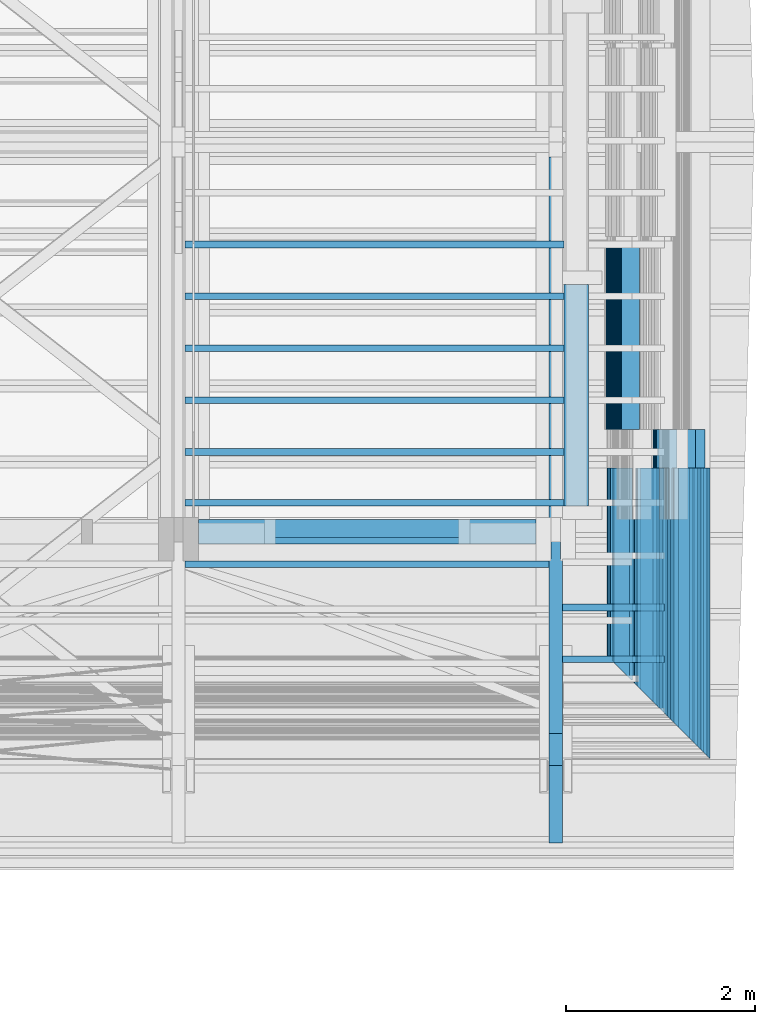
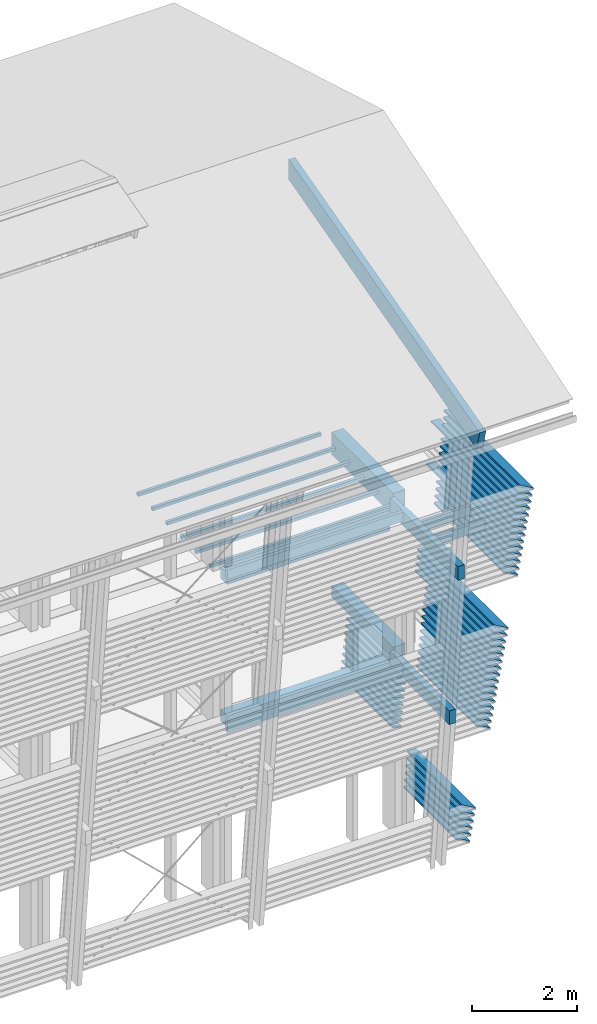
# One storey, part 22 of 48: 64 beams.
"""IFC2X3 building model written with IfcOpenShell, lengths in metres."""

import ifcopenshell
import ifcopenshell.guid

model = None  # the IFC model being written
_history = None  # IfcOwnerHistory: only IFC2X3 demands one
_inside = {}  # id of a spatial element -> (the spatial element, [elements in it])
_under = {}  # id of a project, library or spatial element -> (it, [spatial elements below it])
_declared = {}  # id of a project -> (the project, [libraries it declares])
_typed = {}  # id of a type object -> (the type object, [elements of that type])
_made_of = {}  # id of a material, layer set ... -> (it, [elements and type objects made of it])


def new_model(schema):
    """Start an empty IFC model of exactly this schema.

    Asked for "IFC4X3", IfcOpenShell would pick the latest addendum, in which some entities
    have other attributes; the version numbers below select the first issue.
    IFC2X3 requires an IfcOwnerHistory on every rooted entity: one is made here for all.
    """
    global model, _history
    if schema == "IFC4X3":
        model = ifcopenshell.file(schema_version=(4, 3, 0, 0))
    else:
        model = ifcopenshell.file(schema=schema)
    _inside.clear()
    _under.clear()
    _declared.clear()
    _typed.clear()
    _made_of.clear()
    _history = None
    if model.schema == "IFC2X3":
        org = make("IfcOrganization", Name="unknown")
        user = make(
            "IfcPersonAndOrganization",
            ThePerson=make("IfcPerson", FamilyName="unknown"),
            TheOrganization=org,
        )
        app = make(
            "IfcApplication",
            ApplicationDeveloper=org,
            Version="unknown",
            ApplicationFullName="unknown",
            ApplicationIdentifier="unknown",
        )
        _history = make(
            "IfcOwnerHistory",
            OwningUser=user,
            OwningApplication=app,
            ChangeAction="ADDED",
            CreationDate=0,
        )
    return model


def make(cls, **values):
    """One entity of the class cls with the attributes given. An attribute that is None is left unset."""
    return model.create_entity(
        cls, **{name: value for name, value in values.items() if value is not None}
    )


def rooted(cls, **values):
    """An entity with a GlobalId (a new one), such as an element, a storey or a relation."""
    return make(cls, GlobalId=ifcopenshell.guid.new(), OwnerHistory=_history, **values)


def si_unit(unit_type, name, prefix=None):
    """IfcSIUnit, for example si_unit("LENGTHUNIT", "METRE", prefix="MILLI")."""
    return make("IfcSIUnit", UnitType=unit_type, Prefix=prefix, Name=name)


def assignment(units):
    """IfcUnitAssignment: the units of a project."""
    return None if units is None else make("IfcUnitAssignment", Units=units)


def point(xyz):
    """IfcCartesianPoint."""
    return None if xyz is None else make("IfcCartesianPoint", Coordinates=xyz)


def direction(xyz):
    """IfcDirection."""
    return None if xyz is None else make("IfcDirection", DirectionRatios=xyz)


def frame(location, z_axis=None, x_axis=None):
    """IfcAxis2Placement3D, a coordinate frame: its origin and axes. An axis left out is left unset."""
    return make(
        "IfcAxis2Placement3D",
        Location=point(location),
        Axis=direction(z_axis),
        RefDirection=direction(x_axis),
    )


def origin_with_axes():
    """The frame at (0, 0, 0) with the z axis (0, 0, 1) and the x axis (1, 0, 0) written out."""
    return frame((0.0, 0.0, 0.0), z_axis=(0.0, 0.0, 1.0), x_axis=(1.0, 0.0, 0.0))


def place(relative_to, where):
    """IfcLocalPlacement: puts the frame where relative to a parent placement (None: the world)."""
    return make(
        "IfcLocalPlacement", PlacementRelTo=relative_to, RelativePlacement=where
    )


def context(
    kind, dimensions, precision=None, world=None, true_north=None, identifier=None
):
    """IfcGeometricRepresentationContext, for example the 3D "Model" context."""
    return make(
        "IfcGeometricRepresentationContext",
        ContextIdentifier=identifier,
        ContextType=kind,
        CoordinateSpaceDimension=dimensions,
        Precision=precision,
        WorldCoordinateSystem=world,
        TrueNorth=true_north,
    )


def subcontext(parent, identifier, kind, view, scale=None):
    """IfcGeometricRepresentationSubContext, for example "Body" below "Model"."""
    return make(
        "IfcGeometricRepresentationSubContext",
        ContextIdentifier=identifier,
        ContextType=kind,
        ParentContext=parent,
        TargetScale=scale,
        TargetView=view,
    )


def project(units=None, contexts=None):
    """IfcProject with its units and contexts."""
    return rooted(
        "IfcProject",
        Name="project",
        RepresentationContexts=contexts,
        UnitsInContext=assignment(units),
    )


def spatial(cls, under=None, at=None, **own):
    """A site, building, storey or space (cls), placed at a placement, below another one or the project."""
    s = rooted(cls, ObjectPlacement=at, **own)
    if under is not None:
        _under.setdefault(under.id(), (under, []))[1].append(s)
    return s


def faces_of(points, faces, orient=None, outer=None):
    """IfcFace entities. A face is a list of loops; a loop is a list of indices into points, from 0.

    orient and outer hold one flag for each loop. By default every Orientation is true, the
    first loop of a face is its IfcFaceOuterBound and the others are IfcFaceBound.
    """
    made = []
    for i, loops in enumerate(faces):
        bounds = []
        for j, loop in enumerate(loops):
            is_outer = j == 0 if outer is None else outer[i][j]
            bounds.append(
                make(
                    "IfcFaceOuterBound" if is_outer else "IfcFaceBound",
                    Bound=make("IfcPolyLoop", Polygon=[points[k] for k in loop]),
                    Orientation=True if orient is None else orient[i][j],
                )
            )
        made.append(make("IfcFace", Bounds=bounds))
    return made


def faceted_brep(points, faces, orient=None, outer=None, voids=None):
    """IfcFacetedBrep: a solid bounded by flat faces; with voids (closed shells), ...WithVoids."""
    shared = [point(p) for p in points]
    hull = make("IfcClosedShell", CfsFaces=faces_of(shared, faces, orient, outer))
    if voids is None:
        return make("IfcFacetedBrep", Outer=hull)
    return make(
        "IfcFacetedBrepWithVoids",
        Outer=hull,
        Voids=[
            make(cls, CfsFaces=faces_of(shared, fs, o, b)) for cls, fs, o, b in voids
        ],
    )


def shape(context_of_items, identifier, shape_type, items):
    """IfcShapeRepresentation: the items that make up one representation, for example the "Body"."""
    return make(
        "IfcShapeRepresentation",
        ContextOfItems=context_of_items,
        RepresentationIdentifier=identifier,
        RepresentationType=shape_type,
        Items=items,
    )


def material(Name=None, Category=None):
    """IfcMaterial."""
    return make("IfcMaterial", Name=Name, Category=Category)


def made_of(thing, what):
    """Note that an element or type object is made of a material, layer set ...; save() writes the relation."""
    if what is not None:
        _made_of.setdefault(what.id(), (what, []))[1].append(thing)
    return thing


def element(
    cls,
    number,
    at=None,
    inside=None,
    cuts=None,
    type_object=None,
    material=None,
    context=None,
    identifier="Body",
    shape_type=None,
    held_by="IfcProductDefinitionShape",
    body=None,
    shapes=None,
    **own,
):
    """One element of the class cls, such as IfcWall. Its Tag is "e" and its number.

    at: its placement. inside: the storey or other place that contains it. cuts: it is an
    opening in that element (IfcRelVoidsElement). A single representation is given by context,
    identifier, shape_type and body (its items); several are given by shapes. held_by: the class
    of the entity that holds the representations. save() writes the other relations.
    """
    e = rooted(cls, Tag="e%d" % number, ObjectPlacement=at, **own)
    if body is not None:
        shapes = [shape(context, identifier, shape_type, body)]
    if shapes is not None:
        e.Representation = make(held_by, Representations=shapes)
    if inside is not None:
        _inside.setdefault(inside.id(), (inside, []))[1].append(e)
    if cuts is not None:
        rooted(
            "IfcRelVoidsElement", RelatingBuildingElement=cuts, RelatedOpeningElement=e
        )
    if type_object is not None:
        _typed.setdefault(type_object.id(), (type_object, []))[1].append(e)
    return made_of(e, material)


def aggregate(whole, parts):
    """IfcRelAggregates: a whole, such as a stair, and the parts it consists of."""
    return rooted("IfcRelAggregates", RelatingObject=whole, RelatedObjects=parts)


def save(model, path):
    """Write the relations noted so far, then the file.

    IfcRelAggregates (storeys below a building ...), IfcRelContainedInSpatialStructure (elements
    in a storey), IfcRelDefinesByType, IfcRelAssociatesMaterial and IfcRelDeclares: one each for
    every whole, place, type object, material and project.
    """
    for whole, parts in _under.values():
        aggregate(whole, parts)
    for where, things in _inside.values():
        rooted(
            "IfcRelContainedInSpatialStructure",
            RelatedElements=things,
            RelatingStructure=where,
        )
    for kind, things in _typed.values():
        rooted("IfcRelDefinesByType", RelatedObjects=things, RelatingType=kind)
    for what, things in _made_of.values():
        rooted("IfcRelAssociatesMaterial", RelatedObjects=things, RelatingMaterial=what)
    for by, libraries in _declared.values():
        rooted("IfcRelDeclares", RelatingContext=by, RelatedDefinitions=libraries)
    model.write(path)


model = new_model("IFC2X3")

# Units and contexts
model_context = context("Model", 3, precision=1e-06, world=origin_with_axes(), true_north=direction((0.0, 1.0, 0.0)))
body_context = subcontext(model_context, "Body", "Model", "MODEL_VIEW")
ifc_project = project(units=[si_unit("LENGTHUNIT", "METRE"), si_unit("AREAUNIT", "SQUARE_METRE"), si_unit("VOLUMEUNIT", "CUBIC_METRE"), si_unit("PLANEANGLEUNIT", "RADIAN")], contexts=[model_context])

# Site, building, storey
site_placement = place(None, origin_with_axes())
site = spatial("IfcSite", under=ifc_project, at=site_placement, CompositionType="ELEMENT")
building_placement = place(site_placement, origin_with_axes())
building = spatial("IfcBuilding", under=site, at=building_placement, Name="Building 1", CompositionType="ELEMENT")
storey_placement = place(building_placement, origin_with_axes())
storey = spatial("IfcBuildingStorey", under=building, at=storey_placement, Name="Storey 1", CompositionType="ELEMENT", Elevation=0.0)

# Beams
ifc_material_1 = material(Name="Moabi")
beam_1_placement = place(storey_placement, frame((70.2608185, -190.2580698, 2.9546989), z_axis=(-0.9659258, 0.0, 0.258819), x_axis=(0.0, -1.0, 0.0)))
element("IfcBeam", 1, at=beam_1_placement, inside=storey, material=ifc_material_1, Name="garde corp", context=body_context, shape_type="Brep", body=[
    faceted_brep([(1.9999995, 0.02, -0.1), (1.9999995, -0.02, -0.1), (0.0, -0.02, -0.1), (0.0, 0.02, -0.1), (1.9999995, -0.02, 0.1), (0.0, -0.02, 0.1), (1.9999995, 0.02, 0.1), (0.0, 0.02, 0.1)], [[[0, 1, 2, 3]], [[1, 4, 5, 2]], [[4, 6, 7, 5]], [[6, 0, 3, 7]], [[1, 0, 6, 4]], [[7, 3, 2, 5]]]),
])
beam_2_placement = place(storey_placement, frame((70.8232946, -192.6638606, 7.0782118), z_axis=(-0.9945219, 0.0, 0.1045285), x_axis=(0.0, -1.0, 0.0)))
element("IfcBeam", 2, at=beam_2_placement, inside=storey, material=ifc_material_1, Name="garde corp", context=body_context, shape_type="Brep", body=[
    faceted_brep([(2.8787859, -0.02, -0.1), (2.881765, 0.0085004, -0.1), (2.881765, 0.02, -0.0987913), (2.6840627, 0.02, 0.1), (2.6798815, -0.02, 0.1), (2.881765, 0.02, -0.1), (0.0, 0.02, -0.1), (0.0, 0.02, 0.1), (0.0, -0.02, -0.1), (0.0, -0.02, 0.1)], [[[0, 1, 2, 3, 4]], [[3, 2, 5, 6, 7]], [[2, 1, 5]], [[1, 0, 8, 6, 5]], [[0, 4, 9, 8]], [[4, 3, 7, 9]], [[7, 6, 8, 9]]]),
])
beam_3_placement = place(storey_placement, frame((70.4888035, -195.2111699, 3.8957417), z_axis=(-0.9945219, 0.0, 0.1045285), x_axis=(0.0, 1.0, 0.0)))
element("IfcBeam", 3, at=beam_3_placement, inside=storey, material=ifc_material_1, Name="garde corp", context=body_context, shape_type="Brep", body=[
    faceted_brep([(0.0030144, 0.02, -0.1), (0.0, -0.0088383, -0.1), (0.0, -0.02, -0.0988269), (0.1977377, -0.02, 0.1), (0.2019188, 0.02, 0.1), (0.0, -0.02, -0.1), (2.5473093, -0.02, -0.1), (2.5473093, -0.02, 0.1), (2.5473093, 0.02, -0.1), (2.5473093, 0.02, 0.1)], [[[0, 1, 2, 3, 4]], [[3, 2, 5, 6, 7]], [[2, 1, 5]], [[1, 0, 8, 6, 5]], [[0, 4, 9, 8]], [[4, 3, 7, 9]], [[7, 6, 8, 9]]]),
])
beam_4_placement = place(storey_placement, frame((70.277543, -190.2580698, 3.1138224), z_axis=(-0.9659258, 0.0, 0.258819), x_axis=(0.0, -1.0, 0.0)))
element("IfcBeam", 4, at=beam_4_placement, inside=storey, material=ifc_material_1, Name="garde corp", context=body_context, shape_type="Brep", body=[
    faceted_brep([(1.9999995, 0.02, -0.1), (1.9999995, -0.02, -0.1), (0.0, -0.02, -0.1), (0.0, 0.02, -0.1), (1.9999995, -0.02, 0.1), (0.0, -0.02, 0.1), (1.9999995, 0.02, 0.1), (0.0, 0.02, 0.1)], [[[0, 1, 2, 3]], [[1, 4, 5, 2]], [[4, 6, 7, 5]], [[6, 0, 3, 7]], [[1, 0, 6, 4]], [[7, 3, 2, 5]]]),
])
beam_5_placement = place(storey_placement, frame((70.9236419, -192.6638606, 8.0329528), z_axis=(-0.9945219, 0.0, 0.1045285), x_axis=(0.0, -1.0, 0.0)))
element("IfcBeam", 5, at=beam_5_placement, inside=storey, material=ifc_material_1, Name="garde corp", context=body_context, shape_type="Brep", body=[
    faceted_brep([(2.9791332, -0.02, -0.1), (2.9833144, 0.02, -0.1), (2.78441, 0.02, 0.1), (2.7802289, -0.02, 0.1), (0.0, 0.02, -0.1), (0.0, 0.02, 0.1), (0.0, -0.02, -0.1), (0.0, -0.02, 0.1)], [[[0, 1, 2, 3]], [[2, 1, 4, 5]], [[1, 0, 6, 4]], [[0, 3, 7, 6]], [[3, 2, 5, 7]], [[5, 4, 6, 7]]]),
])
ifc_material_2 = material(Name="GL28h")
beam_6_placement = place(storey_placement, frame((65.6997437, -193.4346515, 7.64), z_axis=(0.0, 0.0, 1.0), x_axis=(1.0, 0.0, 0.0)))
element("IfcBeam", 6, at=beam_6_placement, inside=storey, material=ifc_material_2, Name="Rive", context=body_context, shape_type="Brep", body=[
    faceted_brep([(0.0, -0.035, -0.11), (0.0, -0.035, 0.11), (0.0, 0.035, 0.11), (0.0, 0.035, -0.11), (3.58, 0.035, -0.11), (3.58, -0.035, -0.11), (3.58, -0.035, 0.11), (3.58, 0.035, 0.11)], [[[0, 1, 2, 3]], [[0, 3, 4, 5]], [[1, 0, 5, 6]], [[5, 4, 7, 6]], [[3, 2, 7, 4]], [[2, 1, 6, 7]]]),
])
beam_7_placement = place(storey_placement, frame((65.6997437, -193.3396515, 4.085), z_axis=(0.0, 0.0, 1.0), x_axis=(1.0, 0.0, 0.0)))
element("IfcBeam", 7, at=beam_7_placement, inside=storey, material=ifc_material_2, Name="Buton", context=body_context, shape_type="Brep", body=[
    faceted_brep([(0.0, 0.13, 0.13), (0.0, -0.13, 0.13), (3.58, -0.13, 0.13), (3.58, 0.13, 0.13), (0.0, -0.13, -0.13), (3.58, -0.13, -0.13), (0.0, 0.13, -0.13), (3.58, 0.13, -0.13)], [[[0, 1, 2, 3]], [[2, 1, 4, 5]], [[1, 0, 6, 4]], [[5, 4, 6, 7]], [[0, 3, 7, 6]], [[3, 2, 5, 7]]]),
])
beam_8_placement = place(storey_placement, frame((70.5389772, -195.2625103, 4.3731122), z_axis=(-0.9945219, 0.0, 0.1045285), x_axis=(0.0, 1.0, 0.0)))
element("IfcBeam", 8, at=beam_8_placement, inside=storey, material=ifc_material_1, Name="garde corp", context=body_context, shape_type="Brep", body=[
    faceted_brep([(0.0041811, 0.02, -0.1), (0.0, -0.02, -0.1), (0.1989044, -0.02, 0.1), (0.2030855, 0.02, 0.1), (2.5986496, -0.02, -0.1), (2.5986496, -0.02, 0.1), (2.5986496, 0.02, -0.1), (2.5986496, 0.02, 0.1)], [[[0, 1, 2, 3]], [[2, 1, 4, 5]], [[1, 0, 6, 4]], [[0, 3, 7, 6]], [[3, 2, 5, 7]], [[5, 4, 6, 7]]]),
])
beam_9_placement = place(storey_placement, frame((69.4897437, -196.5806087, 11.197686), z_axis=(0.0, -0.258819, 0.9659258), x_axis=(0.0, 0.9659258, 0.258819)))
element("IfcBeam", 9, at=beam_9_placement, inside=storey, material=ifc_material_2, Name="Arbalétrier", context=body_context, shape_type="Brep", body=[
    faceted_brep([(7.4053414, 0.07, -0.23), (7.5285981, 0.07, 0.23), (7.5285981, -0.07, 0.23), (7.4053414, -0.07, -0.23), (0.0, 0.07, 0.23), (0.0, -0.07, 0.23), (0.0, 0.07, -0.23), (0.0, -0.07, -0.23)], [[[0, 1, 2, 3]], [[2, 1, 4, 5]], [[1, 0, 6, 4]], [[0, 3, 7, 6]], [[3, 2, 5, 7]], [[6, 7, 5, 4]]]),
])
beam_10_placement = place(storey_placement, frame((65.6997437, -193.3396515, 7.4), z_axis=(0.0, 0.0, 1.0), x_axis=(1.0, 0.0, 0.0)))
element("IfcBeam", 10, at=beam_10_placement, inside=storey, material=ifc_material_2, Name="Buton", context=body_context, shape_type="Brep", body=[
    faceted_brep([(0.0, 0.13, 0.13), (0.0, -0.13, 0.13), (3.58, -0.13, 0.13), (3.58, 0.13, 0.13), (0.0, -0.13, -0.13), (3.58, -0.13, -0.13), (0.0, 0.13, -0.13), (3.58, 0.13, -0.13)], [[[0, 1, 2, 3]], [[2, 1, 4, 5]], [[1, 0, 6, 4]], [[5, 4, 6, 7]], [[0, 3, 7, 6]], [[3, 2, 5, 7]]]),
])
beam_11_placement = place(storey_placement, frame((70.8567437, -192.6638606, 7.3964588), z_axis=(-0.9945219, 0.0, 0.1045285), x_axis=(0.0, -1.0, 0.0)))
element("IfcBeam", 11, at=beam_11_placement, inside=storey, material=ifc_material_1, Name="garde corp", context=body_context, shape_type="Brep", body=[
    faceted_brep([(2.912235, -0.02, -0.1), (2.9164162, 0.02, -0.1), (2.7175118, 0.02, 0.1), (2.7133306, -0.02, 0.1), (0.0, 0.02, -0.1), (0.0, 0.02, 0.1), (0.0, -0.02, -0.1), (0.0, -0.02, 0.1)], [[[0, 1, 2, 3]], [[2, 1, 4, 5]], [[1, 0, 6, 4]], [[0, 3, 7, 6]], [[3, 2, 5, 7]], [[5, 4, 6, 7]]]),
])
beam_12_placement = place(storey_placement, frame((69.7097437, -190.7180698, 4.085), z_axis=(0.0, 0.0, 1.0), x_axis=(0.0, -1.0, 0.0)))
element("IfcBeam", 12, at=beam_12_placement, inside=storey, material=ifc_material_2, Name="Buton", context=body_context, shape_type="Brep", body=[
    faceted_brep([(2.3515817, -0.13, -0.13), (2.3515817, 0.13, -0.13), (2.3515817, 0.13, 0.13), (2.3515817, -0.13, 0.13), (0.0, 0.13, -0.13), (0.0, 0.13, 0.13), (0.0, -0.13, 0.13), (0.0, -0.13, -0.13)], [[[0, 1, 2, 3]], [[4, 5, 2, 1]], [[5, 6, 3, 2]], [[6, 7, 0, 3]], [[7, 4, 1, 0]], [[5, 4, 7, 6]]]),
])
beam_13_placement = place(storey_placement, frame((69.4897437, -193.1896515, 7.649), z_axis=(0.0, 0.0, 1.0), x_axis=(0.0, -1.0, 0.0)))
element("IfcBeam", 13, at=beam_13_placement, inside=storey, material=ifc_material_2, Name="Sommier Coursive", context=body_context, shape_type="Brep", body=[
    faceted_brep([(0.0, -0.05, -0.16), (0.44, -0.05, -0.16), (0.44, -0.05, 0.16), (0.0, -0.05, 0.16), (0.44, -0.07, -0.16), (0.44, -0.07, 0.16), (0.0, 0.05, 0.16), (0.0, 0.05, -0.16), (2.6285375, -0.07, 0.16), (2.6285375, 0.07, 0.16), (0.44, 0.07, 0.16), (0.44, 0.05, 0.16), (0.44, 0.05, -0.16), (0.44, 0.07, -0.16), (2.6285375, -0.07, -0.16), (2.6285375, 0.07, -0.16)], [[[0, 1, 2, 3]], [[1, 4, 5, 2]], [[0, 3, 6, 7]], [[3, 2, 5, 8, 9, 10, 11, 6]], [[6, 11, 12, 7]], [[11, 10, 13, 12]], [[5, 4, 14, 8]], [[1, 0, 7, 12, 13, 15, 14, 4]], [[13, 10, 9, 15]], [[9, 8, 14, 15]]]),
])
beam_14_placement = place(storey_placement, frame((69.7097437, -190.7180698, 7.53), z_axis=(0.0, 0.0, 1.0), x_axis=(0.0, -1.0, 0.0)))
element("IfcBeam", 14, at=beam_14_placement, inside=storey, material=ifc_material_2, Name="Buton", context=body_context, shape_type="Brep", body=[
    faceted_brep([(2.3515817, -0.13, 0.26), (2.3515817, -0.13, -0.26), (2.3515817, 0.13, -0.26), (2.3515817, 0.13, 0.26), (0.0, 0.13, -0.26), (0.0, 0.13, 0.26), (0.0, -0.13, 0.26), (0.0, -0.13, -0.26)], [[[0, 1, 2, 3]], [[4, 5, 3, 2]], [[5, 6, 0, 3]], [[6, 7, 1, 0]], [[7, 4, 2, 1]], [[4, 7, 6, 5]]]),
])
beam_15_placement = place(storey_placement, frame((69.4897437, -193.1896515, 4.089), z_axis=(0.0, 0.0, 1.0), x_axis=(0.0, -1.0, 0.0)))
element("IfcBeam", 15, at=beam_15_placement, inside=storey, material=ifc_material_2, Name="Sommier Coursive", context=body_context, shape_type="Brep", body=[
    faceted_brep([(0.0, 0.05, 0.16), (0.44, 0.05, 0.16), (0.44, 0.05, -0.16), (0.0, 0.05, -0.16), (0.44, 0.07, 0.16), (0.44, 0.07, -0.16), (0.0, -0.05, 0.16), (0.44, -0.05, 0.16), (0.44, -0.07, 0.16), (2.2900003, -0.07, 0.16), (2.2900003, 0.07, 0.16), (0.0, -0.05, -0.16), (0.44, -0.05, -0.16), (0.44, -0.07, -0.16), (2.2900003, 0.07, -0.16), (2.2900003, -0.07, -0.16)], [[[0, 1, 2, 3]], [[1, 4, 5, 2]], [[4, 1, 0, 6, 7, 8, 9, 10]], [[0, 3, 11, 6]], [[11, 12, 7, 6]], [[12, 13, 8, 7]], [[2, 5, 14, 15, 13, 12, 11, 3]], [[8, 13, 15, 9]], [[5, 4, 10, 14]], [[10, 9, 15, 14]]]),
])
beam_16_placement = place(storey_placement, frame((70.8400192, -192.6638606, 7.2373353), z_axis=(-0.9945219, 0.0, 0.1045285), x_axis=(0.0, -1.0, 0.0)))
element("IfcBeam", 16, at=beam_16_placement, inside=storey, material=ifc_material_1, Name="garde corp", context=body_context, shape_type="Brep", body=[
    faceted_brep([(2.8955105, -0.02, -0.1), (2.8976497, 0.0004656, -0.1), (2.8976497, 0.02, -0.0979468), (2.7007872, 0.02, 0.1), (2.6966061, -0.02, 0.1), (2.8976497, 0.02, -0.1), (0.0, 0.02, -0.1), (0.0, 0.02, 0.1), (0.0, -0.02, -0.1), (0.0, -0.02, 0.1)], [[[0, 1, 2, 3, 4]], [[3, 2, 5, 6, 7]], [[2, 1, 5]], [[1, 0, 8, 6, 5]], [[0, 4, 9, 8]], [[4, 3, 7, 9]], [[7, 6, 8, 9]]]),
])
beam_17_placement = place(storey_placement, frame((71.0072647, -192.6638606, 8.8285703), z_axis=(-0.9945219, 0.0, 0.1045285), x_axis=(0.0, -1.0, 0.0)))
element("IfcBeam", 17, at=beam_17_placement, inside=storey, material=ifc_material_1, Name="garde corp", context=body_context, shape_type="Brep", body=[
    faceted_brep([(3.062756, -0.02, -0.1), (3.0669371, 0.02, -0.1), (2.8680328, 0.02, 0.1), (2.8638516, -0.02, 0.1), (0.0, 0.02, -0.1), (0.0, 0.02, 0.1), (0.0, -0.02, -0.1), (0.0, -0.02, 0.1)], [[[0, 1, 2, 3]], [[2, 1, 4, 5]], [[1, 0, 6, 4]], [[0, 3, 7, 6]], [[3, 2, 5, 7]], [[5, 4, 6, 7]]]),
])
for number, where, z_axis, x_axis, name in (
    (18, (70.1939203, -190.2580698, 2.3182049), (-0.9659258, 0.0, 0.258819), (0.0, -1.0, 0.0), "garde corp"),
    (19, (70.1437466, -190.2580698, 1.8408344), (-0.9659258, 0.0, 0.258819), (0.0, -1.0, 0.0), "garde corp"),
    (20, (70.1604712, -190.2580698, 1.9999579), (-0.9659258, 0.0, 0.258819), (0.0, -1.0, 0.0), "garde corp"),
    (21, (70.2106448, -190.2580698, 2.4773284), (-0.9659258, 0.0, 0.258819), (0.0, -1.0, 0.0), "garde corp"),
    (22, (70.1270221, -190.2580698, 1.6817109), (-0.9659258, 0.0, 0.258819), (0.0, -1.0, 0.0), "garde corp"),
    (23, (70.2273694, -190.2580698, 2.6364519), (-0.9659258, 0.0, 0.258819), (0.0, -1.0, 0.0), "garde corp"),
    (24, (70.1771957, -190.2580698, 2.1590814), (-0.9659258, 0.0, 0.258819), (0.0, -1.0, 0.0), "garde corp"),
):
    element("IfcBeam", number, at=place(storey_placement, frame(where, z_axis=z_axis, x_axis=x_axis)), inside=storey, material=ifc_material_1, Name=name, context=body_context, shape_type="Brep", body=[
        faceted_brep([(1.9999995, 0.02, -0.1), (1.9999995, -0.02, -0.1), (0.0, -0.02, -0.1), (0.0, 0.02, -0.1), (1.9999995, -0.02, 0.1), (0.0, -0.02, 0.1), (1.9999995, 0.02, 0.1), (0.0, 0.02, 0.1)], [[[0, 1, 2, 3]], [[1, 4, 5, 2]], [[4, 6, 7, 5]], [[6, 0, 3, 7]], [[1, 0, 6, 4]], [[7, 3, 2, 5]]]),
    ])
beam_18_placement = place(storey_placement, frame((70.1543124, -192.6638606, 0.7132717), z_axis=(-0.9945219, 0.0, 0.1045285), x_axis=(0.0, -1.0, 0.0)))
element("IfcBeam", 25, at=beam_18_placement, inside=storey, material=ifc_material_1, Name="garde corp", context=body_context, shape_type="Brep", body=[
    faceted_brep([(2.0108994, -0.02, 0.1), (2.1979775, -0.02, -0.0881086), (2.1979775, 0.02, -0.0839044), (2.0150805, 0.02, 0.1), (2.1979775, -0.02, -0.1), (2.1979775, 0.02, -0.1), (0.0, -0.02, 0.1), (0.0, -0.02, -0.1), (0.0, 0.02, -0.1), (0.0, 0.02, 0.1)], [[[0, 1, 2, 3]], [[2, 1, 4, 5]], [[1, 0, 6, 7, 4]], [[5, 4, 7, 8]], [[0, 3, 9, 6]], [[3, 2, 5, 8, 9]], [[9, 8, 7, 6]]]),
])
beam_19_placement = place(storey_placement, frame((70.2440939, -190.2580698, 2.7955754), z_axis=(-0.9659258, 0.0, 0.258819), x_axis=(0.0, -1.0, 0.0)))
element("IfcBeam", 26, at=beam_19_placement, inside=storey, material=ifc_material_1, Name="garde corp", context=body_context, shape_type="Brep", body=[
    faceted_brep([(1.9999995, 0.02, -0.1), (1.9999995, -0.02, -0.1), (0.0, -0.02, -0.1), (0.0, 0.02, -0.1), (1.9999995, -0.02, 0.1), (0.0, -0.02, 0.1), (1.9999995, 0.02, 0.1), (0.0, 0.02, 0.1)], [[[0, 1, 2, 3]], [[1, 4, 5, 2]], [[4, 6, 7, 5]], [[6, 0, 3, 7]], [[1, 0, 6, 4]], [[7, 3, 2, 5]]]),
])
beam_20_placement = place(storey_placement, frame((70.8901928, -192.6638606, 7.7147058), z_axis=(-0.9945219, 0.0, 0.1045285), x_axis=(0.0, -1.0, 0.0)))
element("IfcBeam", 27, at=beam_20_placement, inside=storey, material=ifc_material_1, Name="garde corp", context=body_context, shape_type="Brep", body=[
    faceted_brep([(2.9456841, -0.02, -0.1), (2.9462001, -0.0150639, -0.1), (2.9462001, 0.02, -0.0963146), (2.7509609, 0.02, 0.1), (2.7467798, -0.02, 0.1), (2.9462001, 0.02, -0.1), (0.0, 0.02, -0.1), (0.0, 0.02, 0.1), (0.0, -0.02, -0.1), (0.0, -0.02, 0.1)], [[[0, 1, 2, 3, 4]], [[3, 2, 5, 6, 7]], [[2, 1, 5]], [[1, 0, 8, 6, 5]], [[0, 4, 9, 8]], [[4, 3, 7, 9]], [[7, 6, 8, 9]]]),
])
beam_21_placement = place(storey_placement, frame((70.957091, -192.6638606, 8.3511998), z_axis=(-0.9945219, 0.0, 0.1045285), x_axis=(0.0, -1.0, 0.0)))
element("IfcBeam", 28, at=beam_21_placement, inside=storey, material=ifc_material_1, Name="garde corp", context=body_context, shape_type="Brep", body=[
    faceted_brep([(3.0125823, -0.02, -0.1), (3.0167635, 0.02, -0.1), (2.8178591, 0.02, 0.1), (2.813678, -0.02, 0.1), (0.0, 0.02, -0.1), (0.0, 0.02, 0.1), (0.0, -0.02, -0.1), (0.0, -0.02, 0.1)], [[[0, 1, 2, 3]], [[2, 1, 4, 5]], [[1, 0, 6, 4]], [[0, 3, 7, 6]], [[3, 2, 5, 7]], [[5, 4, 6, 7]]]),
])
beam_22_placement = place(storey_placement, frame((71.0239892, -192.6638606, 8.9876938), z_axis=(-0.9945219, 0.0, 0.1045285), x_axis=(0.0, -1.0, 0.0)))
element("IfcBeam", 29, at=beam_22_placement, inside=storey, material=ifc_material_1, Name="garde corp", context=body_context, shape_type="Brep", body=[
    faceted_brep([(3.0794806, -0.02, -0.1), (3.0836617, 0.02, -0.1), (2.8847573, 0.02, 0.1), (2.8805762, -0.02, 0.1), (0.0, 0.02, -0.1), (0.0, 0.02, 0.1), (0.0, -0.02, -0.1), (0.0, -0.02, 0.1)], [[[0, 1, 2, 3]], [[2, 1, 4, 5]], [[1, 0, 6, 4]], [[0, 3, 7, 6]], [[3, 2, 5, 7]], [[5, 4, 6, 7]]]),
])
beam_23_placement = place(storey_placement, frame((70.6225999, -195.346133, 5.1687298), z_axis=(-0.9945219, 0.0, 0.1045285), x_axis=(0.0, 1.0, 0.0)))
element("IfcBeam", 30, at=beam_23_placement, inside=storey, material=ifc_material_1, Name="garde corp", context=body_context, shape_type="Brep", body=[
    faceted_brep([(0.0041811, 0.02, -0.1), (0.0, -0.02, -0.1), (0.1989044, -0.02, 0.1), (0.2030855, 0.02, 0.1), (3.0880632, -0.02, -0.1), (3.0880632, -0.02, 0.1), (3.0880632, 0.02, -0.1), (3.0880632, 0.02, 0.1)], [[[0, 1, 2, 3]], [[2, 1, 4, 5]], [[1, 0, 6, 4]], [[0, 3, 7, 6]], [[3, 2, 5, 7]], [[5, 4, 6, 7]]]),
])
beam_24_placement = place(storey_placement, frame((70.171037, -192.6638606, 0.8723952), z_axis=(-0.9945219, 0.0, 0.1045285), x_axis=(0.0, -1.0, 0.0)))
element("IfcBeam", 31, at=beam_24_placement, inside=storey, material=ifc_material_1, Name="garde corp", context=body_context, shape_type="Brep", body=[
    faceted_brep([(2.2265283, -0.02, -0.1), (2.2297142, 0.0104792, -0.1), (2.2297142, 0.02, -0.0989993), (2.0318051, 0.02, 0.1), (2.0276239, -0.02, 0.1), (2.2297142, 0.02, -0.1), (0.0, 0.02, -0.1), (0.0, 0.02, 0.1), (0.0, -0.02, -0.1), (0.0, -0.02, 0.1)], [[[0, 1, 2, 3, 4]], [[3, 2, 5, 6, 7]], [[2, 1, 5]], [[1, 0, 8, 6, 5]], [[0, 4, 9, 8]], [[4, 3, 7, 9]], [[7, 6, 8, 9]]]),
])
beam_25_placement = place(storey_placement, frame((70.9738156, -192.2580698, 8.5103233), z_axis=(-0.9945219, 0.0, 0.1045285), x_axis=(0.0, -1.0, 0.0)))
element("IfcBeam", 32, at=beam_25_placement, inside=storey, material=ifc_material_1, Name="garde corp", context=body_context, shape_type="Brep", body=[
    faceted_brep([(3.4350977, -0.02, -0.1), (3.4392789, 0.02, -0.1), (3.2403745, 0.02, 0.1), (3.2361934, -0.02, 0.1), (0.0, 0.02, -0.1), (0.0, 0.02, 0.1), (0.0, -0.02, -0.1), (0.0, -0.02, 0.1)], [[[0, 1, 2, 3]], [[2, 1, 4, 5]], [[1, 0, 6, 4]], [[0, 3, 7, 6]], [[3, 2, 5, 7]], [[5, 4, 6, 7]]]),
])
beam_26_placement = place(storey_placement, frame((70.6058754, -195.3231959, 5.0096063), z_axis=(-0.9945219, 0.0, 0.1045285), x_axis=(0.0, 1.0, 0.0)))
element("IfcBeam", 33, at=beam_26_placement, inside=storey, material=ifc_material_1, Name="garde corp", context=body_context, shape_type="Brep", body=[
    faceted_brep([(0.196873, 0.02, 0.1), (0.0, 0.02, -0.0979574), (0.0, -0.02, -0.0937532), (0.1926918, -0.02, 0.1), (0.0, 0.02, -0.1), (0.0, -0.02, -0.1), (2.6593353, 0.02, 0.1), (2.6593353, 0.02, -0.1), (2.6593353, -0.02, -0.1), (2.6593353, -0.02, 0.1)], [[[0, 1, 2, 3]], [[2, 1, 4, 5]], [[1, 0, 6, 7, 4]], [[5, 4, 7, 8]], [[0, 3, 9, 6]], [[3, 2, 5, 8, 9]], [[9, 8, 7, 6]]]),
])
beam_27_placement = place(storey_placement, frame((70.472079, -195.184043, 3.7366182), z_axis=(-0.9945219, 0.0, 0.1045285), x_axis=(0.0, 1.0, 0.0)))
element("IfcBeam", 34, at=beam_27_placement, inside=storey, material=ifc_material_1, Name="garde corp", context=body_context, shape_type="Brep", body=[
    faceted_brep([(0.1915165, 0.02, 0.1), (0.0, 0.02, -0.0925714), (0.0, -0.02, -0.0883672), (0.1873353, -0.02, 0.1), (0.0, 0.02, -0.1), (0.0, -0.02, -0.1), (2.5201824, 0.02, 0.1), (2.5201824, 0.02, -0.1), (2.5201824, -0.02, -0.1), (2.5201824, -0.02, 0.1)], [[[0, 1, 2, 3]], [[2, 1, 4, 5]], [[1, 0, 6, 7, 4]], [[5, 4, 7, 8]], [[0, 3, 9, 6]], [[3, 2, 5, 8, 9]], [[9, 8, 7, 6]]]),
])
beam_28_placement = place(storey_placement, frame((70.4553544, -195.1788875, 3.5774947), z_axis=(-0.9945219, 0.0, 0.1045285), x_axis=(0.0, 1.0, 0.0)))
element("IfcBeam", 35, at=beam_28_placement, inside=storey, material=ifc_material_1, Name="garde corp", context=body_context, shape_type="Brep", body=[
    faceted_brep([(0.0041811, 0.02, -0.1), (0.0, -0.02, -0.1), (0.1989044, -0.02, 0.1), (0.2030855, 0.02, 0.1), (2.5150269, -0.02, -0.1), (2.5150269, -0.02, 0.1), (2.5150269, 0.02, -0.1), (2.5150269, 0.02, 0.1)], [[[0, 1, 2, 3]], [[2, 1, 4, 5]], [[1, 0, 6, 4]], [[0, 3, 7, 6]], [[3, 2, 5, 7]], [[5, 4, 6, 7]]]),
])
beam_29_placement = place(storey_placement, frame((70.5891508, -195.3108341, 4.8504827), z_axis=(-0.9945219, 0.0, 0.1045285), x_axis=(0.0, 1.0, 0.0)))
element("IfcBeam", 36, at=beam_29_placement, inside=storey, material=ifc_material_1, Name="garde corp", context=body_context, shape_type="Brep", body=[
    faceted_brep([(0.0023313, 0.02, -0.1), (0.0, -0.0023031, -0.1), (0.0, -0.02, -0.09814), (0.1970546, -0.02, 0.1), (0.2012357, 0.02, 0.1), (0.0, -0.02, -0.1), (2.6469735, -0.02, -0.1), (2.6469735, -0.02, 0.1), (2.6469735, 0.02, -0.1), (2.6469735, 0.02, 0.1)], [[[0, 1, 2, 3, 4]], [[3, 2, 5, 6, 7]], [[2, 1, 5]], [[1, 0, 8, 6, 5]], [[0, 4, 9, 8]], [[4, 3, 7, 9]], [[7, 6, 8, 9]]]),
])
beam_30_placement = place(storey_placement, frame((70.8734683, -192.2580698, 7.5555823), z_axis=(-0.9945219, 0.0, 0.1045285), x_axis=(0.0, -1.0, 0.0)))
element("IfcBeam", 37, at=beam_30_placement, inside=storey, material=ifc_material_1, Name="garde corp", context=body_context, shape_type="Brep", body=[
    faceted_brep([(3.3347504, -0.02, -0.1), (3.3389316, 0.02, -0.1), (3.1400272, 0.02, 0.1), (3.135846, -0.02, 0.1), (0.0, 0.02, -0.1), (0.0, 0.02, 0.1), (0.0, -0.02, -0.1), (0.0, -0.02, 0.1)], [[[0, 1, 2, 3]], [[2, 1, 4, 5]], [[1, 0, 6, 4]], [[0, 3, 7, 6]], [[3, 2, 5, 7]], [[5, 4, 6, 7]]]),
])
beam_31_placement = place(storey_placement, frame((70.5724263, -195.2959594, 4.6913592), z_axis=(-0.9945219, 0.0, 0.1045285), x_axis=(0.0, 1.0, 0.0)))
element("IfcBeam", 38, at=beam_31_placement, inside=storey, material=ifc_material_1, Name="garde corp", context=body_context, shape_type="Brep", body=[
    faceted_brep([(0.0041811, 0.02, -0.1), (0.0, -0.02, -0.1), (0.1989044, -0.02, 0.1), (0.2030855, 0.02, 0.1), (2.6320987, -0.02, -0.1), (2.6320987, -0.02, 0.1), (2.6320987, 0.02, -0.1), (2.6320987, 0.02, 0.1)], [[[0, 1, 2, 3]], [[2, 1, 4, 5]], [[1, 0, 6, 4]], [[0, 3, 7, 6]], [[3, 2, 5, 7]], [[5, 4, 6, 7]]]),
])
beam_32_placement = place(storey_placement, frame((70.9403665, -192.6638606, 8.1920763), z_axis=(-0.9945219, 0.0, 0.1045285), x_axis=(0.0, -1.0, 0.0)))
element("IfcBeam", 39, at=beam_32_placement, inside=storey, material=ifc_material_1, Name="garde corp", context=body_context, shape_type="Brep", body=[
    faceted_brep([(2.9958578, -0.02, -0.1), (2.9998476, 0.0181698, -0.1), (2.9998476, 0.02, -0.0998076), (2.8011346, 0.02, 0.1), (2.7969534, -0.02, 0.1), (2.9998476, 0.02, -0.1), (0.0, 0.02, -0.1), (0.0, 0.02, 0.1), (0.0, -0.02, -0.1), (0.0, -0.02, 0.1)], [[[0, 1, 2, 3, 4]], [[3, 2, 5, 6, 7]], [[2, 1, 5]], [[1, 0, 8, 6, 5]], [[0, 4, 9, 8]], [[4, 3, 7, 9]], [[7, 6, 8, 9]]]),
])
beam_33_placement = place(storey_placement, frame((70.1877615, -192.6638606, 1.0315187), z_axis=(-0.9945219, 0.0, 0.1045285), x_axis=(0.0, -1.0, 0.0)))
element("IfcBeam", 40, at=beam_33_placement, inside=storey, material=ifc_material_1, Name="garde corp", context=body_context, shape_type="Brep", body=[
    faceted_brep([(2.0443485, -0.02, 0.1), (2.2360616, -0.02, -0.0927691), (2.2360616, 0.02, -0.088565), (2.0485296, 0.02, 0.1), (2.2360616, -0.02, -0.1), (2.2360616, 0.02, -0.1), (0.0, -0.02, 0.1), (0.0, -0.02, -0.1), (0.0, 0.02, -0.1), (0.0, 0.02, 0.1)], [[[0, 1, 2, 3]], [[2, 1, 4, 5]], [[1, 0, 6, 7, 4]], [[5, 4, 7, 8]], [[0, 3, 9, 6]], [[3, 2, 5, 8, 9]], [[9, 8, 7, 6]]]),
])
beam_34_placement = place(storey_placement, frame((70.4219053, -195.1421638, 3.2592477), z_axis=(-0.9945219, 0.0, 0.1045285), x_axis=(0.0, 1.0, 0.0)))
element("IfcBeam", 41, at=beam_34_placement, inside=storey, material=ifc_material_1, Name="garde corp", context=body_context, shape_type="Brep", body=[
    faceted_brep([(0.0009066, 0.02, -0.1), (0.0, 0.0113267, -0.1), (0.0, -0.02, -0.0967074), (0.1956298, -0.02, 0.1), (0.199811, 0.02, 0.1), (0.0, -0.02, -0.1), (2.4783032, -0.02, -0.1), (2.4783032, -0.02, 0.1), (2.4783032, 0.02, -0.1), (2.4783032, 0.02, 0.1)], [[[0, 1, 2, 3, 4]], [[3, 2, 5, 6, 7]], [[2, 1, 5]], [[1, 0, 8, 6, 5]], [[0, 4, 9, 8]], [[4, 3, 7, 9]], [[7, 6, 8, 9]]]),
])
beam_35_placement = place(storey_placement, frame((70.6560491, -195.3792993, 5.4869768), z_axis=(-0.9945219, 0.0, 0.1045285), x_axis=(0.0, 1.0, 0.0)))
element("IfcBeam", 42, at=beam_35_placement, inside=storey, material=ifc_material_1, Name="garde corp", context=body_context, shape_type="Brep", body=[
    faceted_brep([(0.0038983, 0.02, -0.1), (0.0, -0.0172941, -0.1), (0.0, -0.02, -0.0997156), (0.1986215, -0.02, 0.1), (0.2028027, 0.02, 0.1), (0.0, -0.02, -0.1), (3.1212295, -0.02, -0.1), (3.1212295, -0.02, 0.1), (3.1212295, 0.02, -0.1), (3.1212295, 0.02, 0.1)], [[[0, 1, 2, 3, 4]], [[3, 2, 5, 6, 7]], [[2, 1, 5]], [[1, 0, 8, 6, 5]], [[0, 4, 9, 8]], [[4, 3, 7, 9]], [[7, 6, 8, 9]]]),
])
beam_36_placement = place(storey_placement, frame((70.2212107, -192.6638606, 1.3497657), z_axis=(-0.9945219, 0.0, 0.1045285), x_axis=(0.0, -1.0, 0.0)))
element("IfcBeam", 43, at=beam_36_placement, inside=storey, material=ifc_material_1, Name="garde corp", context=body_context, shape_type="Brep", body=[
    faceted_brep([(2.0777976, -0.02, 0.1), (2.2741457, -0.02, -0.0974297), (2.2741457, 0.02, -0.0932255), (2.0819787, 0.02, 0.1), (2.2741457, -0.02, -0.1), (2.2741457, 0.02, -0.1), (0.0, -0.02, 0.1), (0.0, -0.02, -0.1), (0.0, 0.02, -0.1), (0.0, 0.02, 0.1)], [[[0, 1, 2, 3]], [[2, 1, 4, 5]], [[1, 0, 6, 7, 4]], [[5, 4, 7, 8]], [[0, 3, 9, 6]], [[3, 2, 5, 8, 9]], [[9, 8, 7, 6]]]),
])
beam_37_placement = place(storey_placement, frame((70.1375879, -194.8554907, 0.5541482), z_axis=(-0.9945219, 0.0, 0.1045285), x_axis=(0.0, 1.0, 0.0)))
element("IfcBeam", 44, at=beam_37_placement, inside=storey, material=ifc_material_1, Name="garde corp", context=body_context, shape_type="Brep", body=[
    faceted_brep([(0.1974553, 0.02, 0.1), (0.0, 0.02, -0.0985429), (0.0, -0.02, -0.0943388), (0.1932742, -0.02, 0.1), (0.0, 0.02, -0.1), (0.0, -0.02, -0.1), (2.1916301, 0.02, 0.1), (2.1916301, 0.02, -0.1), (2.1916301, -0.02, -0.1), (2.1916301, -0.02, 0.1)], [[[0, 1, 2, 3]], [[2, 1, 4, 5]], [[1, 0, 6, 7, 4]], [[5, 4, 7, 8]], [[0, 3, 9, 6]], [[3, 2, 5, 8, 9]], [[9, 8, 7, 6]]]),
])
beam_38_placement = place(storey_placement, frame((70.80657, -192.6638606, 6.9190883), z_axis=(-0.9945219, 0.0, 0.1045285), x_axis=(0.0, -1.0, 0.0)))
element("IfcBeam", 45, at=beam_38_placement, inside=storey, material=ifc_material_1, Name="garde corp", context=body_context, shape_type="Brep", body=[
    faceted_brep([(2.8620614, -0.02, -0.1), (2.8642461, 0.0009005, -0.1), (2.8642461, 0.02, -0.0979926), (2.6673381, 0.02, 0.1), (2.663157, -0.02, 0.1), (2.8642461, 0.02, -0.1), (0.0, 0.02, -0.1), (0.0, 0.02, 0.1), (0.0, -0.02, -0.1), (0.0, -0.02, 0.1)], [[[0, 1, 2, 3, 4]], [[3, 2, 5, 6, 7]], [[2, 1, 5]], [[1, 0, 8, 6, 5]], [[0, 4, 9, 8]], [[4, 3, 7, 9]], [[7, 6, 8, 9]]]),
])
beam_39_placement = place(storey_placement, frame((70.5055281, -195.2236372, 4.0548652), z_axis=(-0.9945219, 0.0, 0.1045285), x_axis=(0.0, 1.0, 0.0)))
element("IfcBeam", 46, at=beam_39_placement, inside=storey, material=ifc_material_1, Name="garde corp", context=body_context, shape_type="Brep", body=[
    faceted_brep([(0.1976616, 0.02, 0.1), (0.0, 0.02, -0.0987504), (0.0, -0.02, -0.0945462), (0.1934804, -0.02, 0.1), (0.0, 0.02, -0.1), (0.0, -0.02, -0.1), (2.5597766, 0.02, 0.1), (2.5597766, 0.02, -0.1), (2.5597766, -0.02, -0.1), (2.5597766, -0.02, 0.1)], [[[0, 1, 2, 3]], [[2, 1, 4, 5]], [[1, 0, 6, 7, 4]], [[5, 4, 7, 8]], [[0, 3, 9, 6]], [[3, 2, 5, 8, 9]], [[9, 8, 7, 6]]]),
])
beam_40_placement = place(storey_placement, frame((70.6727736, -195.3963067, 5.6461003), z_axis=(-0.9945219, 0.0, 0.1045285), x_axis=(0.0, 1.0, 0.0)))
element("IfcBeam", 47, at=beam_40_placement, inside=storey, material=ifc_material_1, Name="garde corp", context=body_context, shape_type="Brep", body=[
    faceted_brep([(0.0041811, 0.02, -0.1), (0.0, -0.02, -0.1), (0.1989044, -0.02, 0.1), (0.2030855, 0.02, 0.1), (3.1382369, -0.02, -0.1), (3.1382369, -0.02, 0.1), (3.1382369, 0.02, -0.1), (3.1382369, 0.02, 0.1)], [[[0, 1, 2, 3]], [[2, 1, 4, 5]], [[1, 0, 6, 4]], [[0, 3, 7, 6]], [[3, 2, 5, 7]], [[5, 4, 6, 7]]]),
])
beam_41_placement = place(storey_placement, frame((70.9069174, -192.6638606, 7.8738293), z_axis=(-0.9945219, 0.0, 0.1045285), x_axis=(0.0, -1.0, 0.0)))
element("IfcBeam", 48, at=beam_41_placement, inside=storey, material=ifc_material_1, Name="garde corp", context=body_context, shape_type="Brep", body=[
    faceted_brep([(2.9624087, -0.02, -0.1), (2.9665898, 0.02, -0.1), (2.7676854, 0.02, 0.1), (2.7635043, -0.02, 0.1), (0.0, 0.02, -0.1), (0.0, 0.02, 0.1), (0.0, -0.02, -0.1), (0.0, -0.02, 0.1)], [[[0, 1, 2, 3]], [[2, 1, 4, 5]], [[1, 0, 6, 4]], [[0, 3, 7, 6]], [[3, 2, 5, 7]], [[5, 4, 6, 7]]]),
])
beam_42_placement = place(storey_placement, frame((70.6393245, -195.3581656, 5.3278533), z_axis=(-0.9945219, 0.0, 0.1045285), x_axis=(0.0, 1.0, 0.0)))
element("IfcBeam", 49, at=beam_42_placement, inside=storey, material=ifc_material_1, Name="garde corp", context=body_context, shape_type="Brep", body=[
    faceted_brep([(0.1983935, 0.02, 0.1), (0.0, 0.02, -0.0994863), (0.0, -0.02, -0.0952822), (0.1942124, -0.02, 0.1), (0.0, 0.02, -0.1), (0.0, -0.02, -0.1), (3.1000958, 0.02, 0.1), (3.1000958, 0.02, -0.1), (3.1000958, -0.02, -0.1), (3.1000958, -0.02, 0.1)], [[[0, 1, 2, 3]], [[2, 1, 4, 5]], [[1, 0, 6, 7, 4]], [[5, 4, 7, 8]], [[0, 3, 9, 6]], [[3, 2, 5, 8, 9]], [[9, 8, 7, 6]]]),
])
beam_43_placement = place(storey_placement, frame((70.9905401, -192.6638606, 8.6694468), z_axis=(-0.9945219, 0.0, 0.1045285), x_axis=(0.0, -1.0, 0.0)))
element("IfcBeam", 50, at=beam_43_placement, inside=storey, material=ifc_material_1, Name="garde corp", context=body_context, shape_type="Brep", body=[
    faceted_brep([(3.0460315, -0.02, -0.1), (3.0502126, 0.02, -0.1), (2.8513082, 0.02, 0.1), (2.8471271, -0.02, 0.1), (0.0, 0.02, -0.1), (0.0, 0.02, 0.1), (0.0, -0.02, -0.1), (0.0, -0.02, 0.1)], [[[0, 1, 2, 3]], [[2, 1, 4, 5]], [[1, 0, 6, 4]], [[0, 3, 7, 6]], [[3, 2, 5, 7]], [[5, 4, 6, 7]]]),
])
beam_44_placement = place(storey_placement, frame((70.5557017, -195.2792348, 4.5322357), z_axis=(-0.9945219, 0.0, 0.1045285), x_axis=(0.0, 1.0, 0.0)))
element("IfcBeam", 51, at=beam_44_placement, inside=storey, material=ifc_material_1, Name="garde corp", context=body_context, shape_type="Brep", body=[
    faceted_brep([(0.0041811, 0.02, -0.1), (0.0, -0.02, -0.1), (0.1989044, -0.02, 0.1), (0.2030855, 0.02, 0.1), (2.6153742, -0.02, -0.1), (2.6153742, -0.02, 0.1), (2.6153742, 0.02, -0.1), (2.6153742, 0.02, 0.1)], [[[0, 1, 2, 3]], [[2, 1, 4, 5]], [[1, 0, 6, 4]], [[0, 3, 7, 6]], [[3, 2, 5, 7]], [[5, 4, 6, 7]]]),
])
beam_45_placement = place(storey_placement, frame((70.4386299, -195.1545257, 3.4183712), z_axis=(-0.9945219, 0.0, 0.1045285), x_axis=(0.0, 1.0, 0.0)))
element("IfcBeam", 52, at=beam_45_placement, inside=storey, material=ifc_material_1, Name="garde corp", context=body_context, shape_type="Brep", body=[
    faceted_brep([(0.1954483, 0.02, 0.1), (0.0, 0.02, -0.0965249), (0.0, -0.02, -0.0923207), (0.1912671, -0.02, 0.1), (0.0, 0.02, -0.1), (0.0, -0.02, -0.1), (2.4906651, 0.02, 0.1), (2.4906651, 0.02, -0.1), (2.4906651, -0.02, -0.1), (2.4906651, -0.02, 0.1)], [[[0, 1, 2, 3]], [[2, 1, 4, 5]], [[1, 0, 6, 7, 4]], [[5, 4, 7, 8]], [[0, 3, 9, 6]], [[3, 2, 5, 8, 9]], [[9, 8, 7, 6]]]),
])
beam_46_placement = place(storey_placement, frame((70.5222526, -195.2457857, 4.2139887), z_axis=(-0.9945219, 0.0, 0.1045285), x_axis=(0.0, 1.0, 0.0)))
element("IfcBeam", 53, at=beam_46_placement, inside=storey, material=ifc_material_1, Name="garde corp", context=body_context, shape_type="Brep", body=[
    faceted_brep([(0.0041811, 0.02, -0.1), (0.0, -0.02, -0.1), (0.1989044, -0.02, 0.1), (0.2030855, 0.02, 0.1), (2.5819249, -0.02, -0.1), (2.5819249, -0.02, 0.1), (2.5819251, 0.02, -0.1), (2.5819249, 0.02, 0.1)], [[[0, 1, 2, 3]], [[2, 1, 4, 5]], [[1, 0, 6, 4]], [[0, 3, 7, 6]], [[3, 2, 5, 7]], [[5, 4, 6, 7]]]),
])
beam_47_placement = place(storey_placement, frame((70.2044861, -192.6638606, 1.1906422), z_axis=(-0.9945219, 0.0, 0.1045285), x_axis=(0.0, -1.0, 0.0)))
element("IfcBeam", 54, at=beam_47_placement, inside=storey, material=ifc_material_1, Name="garde corp", context=body_context, shape_type="Brep", body=[
    faceted_brep([(2.061073, -0.02, 0.1), (2.2487563, -0.02, -0.0887171), (2.2487563, 0.02, -0.0845129), (2.0652542, 0.02, 0.1), (2.2487563, -0.02, -0.1), (2.2487563, 0.02, -0.1), (0.0, -0.02, 0.1), (0.0, -0.02, -0.1), (0.0, 0.02, -0.1), (0.0, 0.02, 0.1)], [[[0, 1, 2, 3]], [[2, 1, 4, 5]], [[1, 0, 6, 7, 4]], [[5, 4, 7, 8]], [[0, 3, 9, 6]], [[3, 2, 5, 8, 9]], [[9, 8, 7, 6]]]),
])
for number, where, z_axis, x_axis, name in (
    (55, (65.5597437, -193.0346515, 7.494), (0.0, 0.0, 1.0), (1.0, 0.0, 0.0), "Poutre - Bois de construction"),
    (56, (65.5597437, -190.8446515, 7.494), (0.0, 0.0, 1.0), (1.0, 0.0, 0.0), "Poutre - Bois de construction"),
    (57, (65.5597437, -191.3946515, 7.494), (0.0, 0.0, 1.0), (1.0, 0.0, 0.0), "Poutre - Bois de construction"),
    (58, (65.5597437, -190.2946515, 7.494), (0.0, 0.0, 1.0), (1.0, 0.0, 0.0), "Poutre - Bois de construction"),
    (59, (65.5597437, -192.4946515, 7.494), (0.0, 0.0, 1.0), (1.0, 0.0, 0.0), "Poutre - Bois de construction"),
    (60, (65.5597437, -191.9446515, 7.494), (0.0, 0.0, 1.0), (1.0, 0.0, 0.0), "Poutre - Bois de construction"),
):
    element("IfcBeam", number, at=place(storey_placement, frame(where, z_axis=z_axis, x_axis=x_axis)), inside=storey, material=ifc_material_2, Name=name, context=body_context, shape_type="Brep", body=[
        faceted_brep([(4.02, -0.035, 0.035), (4.02, -0.035, -0.035), (4.02, 0.035, -0.035), (4.02, 0.035, 0.035), (0.0, -0.035, -0.035), (0.0, 0.035, -0.035), (0.0, -0.035, 0.035), (0.0, 0.035, 0.035)], [[[0, 1, 2, 3]], [[2, 1, 4, 5]], [[1, 0, 6, 4]], [[0, 3, 7, 6]], [[3, 2, 5, 7]], [[5, 4, 6, 7]]]),
    ])
beam_48_placement = place(storey_placement, frame((65.5597437, -193.6846515, 7.699), z_axis=(0.0, 0.0, 1.0), x_axis=(1.0, 0.0, 0.0)))
element("IfcBeam", 61, at=beam_48_placement, inside=storey, material=ifc_material_2, Name="Solive", context=body_context, shape_type="Brep", body=[
    faceted_brep([(3.86, 0.035, 0.11), (3.86, 0.035, -0.11), (0.0, 0.035, -0.11), (0.0, 0.035, 0.11), (3.86, -0.035, -0.11), (0.0, -0.035, -0.11), (3.86, -0.035, 0.11), (0.0, -0.035, 0.11)], [[[0, 1, 2, 3]], [[1, 4, 5, 2]], [[4, 6, 7, 5]], [[6, 0, 3, 7]], [[1, 0, 6, 4]], [[7, 3, 2, 5]]]),
])
beam_49_placement = place(storey_placement, frame((70.6436389, -194.6946515, 7.699), z_axis=(0.0, 0.0, 1.0), x_axis=(-1.0, 0.0, 0.0)))
element("IfcBeam", 62, at=beam_49_placement, inside=storey, material=ifc_material_2, Name="Solive", context=body_context, shape_type="Brep", body=[
    faceted_brep([(1.0838952, -0.035, -0.11), (1.0838952, 0.035, -0.11), (1.0838952, 0.035, 0.11), (1.0838952, -0.035, 0.11), (0.0, 0.035, -0.11), (0.0, 0.035, 0.11), (0.0, -0.035, -0.11), (0.0, -0.035, 0.11)], [[[0, 1, 2, 3]], [[2, 1, 4, 5]], [[1, 0, 6, 4]], [[0, 3, 7, 6]], [[3, 2, 5, 7]], [[7, 5, 4, 6]]]),
])
beam_50_placement = place(storey_placement, frame((65.5597437, -193.6846515, 4.139), z_axis=(0.0, 0.0, 1.0), x_axis=(1.0, 0.0, 0.0)))
element("IfcBeam", 63, at=beam_50_placement, inside=storey, material=ifc_material_2, Name="Solive", context=body_context, shape_type="Brep", body=[
    faceted_brep([(3.86, 0.035, 0.11), (3.86, 0.035, -0.11), (0.0, 0.035, -0.11), (0.0, 0.035, 0.11), (3.86, -0.035, -0.11), (0.0, -0.035, -0.11), (3.86, -0.035, 0.11), (0.0, -0.035, 0.11)], [[[0, 1, 2, 3]], [[1, 4, 5, 2]], [[4, 6, 7, 5]], [[6, 0, 3, 7]], [[1, 0, 6, 4]], [[7, 3, 2, 5]]]),
])
beam_51_placement = place(storey_placement, frame((70.6436389, -194.1446515, 7.699), z_axis=(0.0, 0.0, 1.0), x_axis=(-1.0, 0.0, 0.0)))
element("IfcBeam", 64, at=beam_51_placement, inside=storey, material=ifc_material_2, Name="Solive", context=body_context, shape_type="Brep", body=[
    faceted_brep([(1.0838952, -0.035, -0.11), (1.0838952, 0.035, -0.11), (1.0838952, 0.035, 0.11), (1.0838952, -0.035, 0.11), (0.0, 0.035, -0.11), (0.0, 0.035, 0.11), (0.0, -0.035, -0.11), (0.0, -0.035, 0.11)], [[[0, 1, 2, 3]], [[2, 1, 4, 5]], [[1, 0, 6, 4]], [[0, 3, 7, 6]], [[3, 2, 5, 7]], [[7, 5, 4, 6]]]),
])

save(model, "model.ifc")
